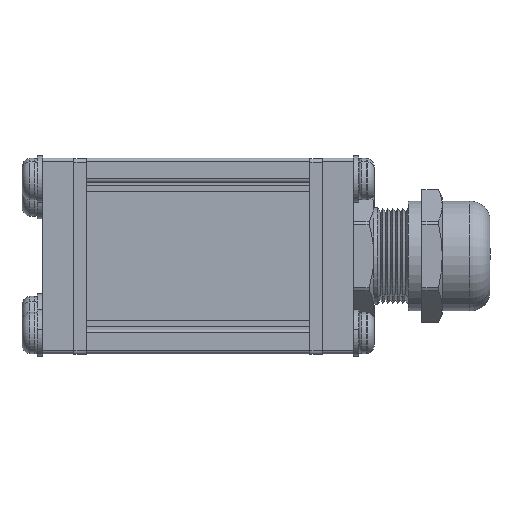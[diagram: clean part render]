
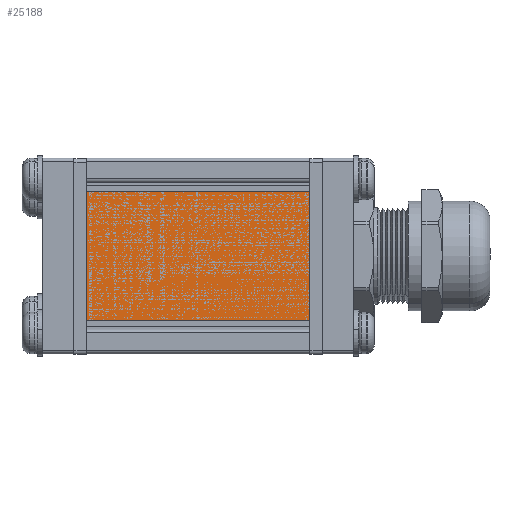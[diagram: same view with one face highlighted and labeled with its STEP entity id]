
A CAD part, top view. The second image highlights one B-rep face of the part: STEP entity #25188.
In plain terms, the highlighted planar face has unit normal (0, 0, 1).
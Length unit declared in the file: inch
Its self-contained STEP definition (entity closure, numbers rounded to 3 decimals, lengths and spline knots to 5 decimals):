
#174 = LINE ( 'NONE', #12764, #17970 ) ;
#1510 = LINE ( 'NONE', #14006, #5534 ) ;
#2366 = CARTESIAN_POINT ( 'NONE',  ( 11.28863, 4.07603, 0.10803 ) ) ;
#2862 = CARTESIAN_POINT ( 'NONE',  ( 10.38863, 4.07603, 0.10803 ) ) ;
#3268 = ORIENTED_EDGE ( 'NONE', *, *, #11172, .T. ) ;
#4085 = DIRECTION ( 'NONE',  ( 0., -1., 0. ) ) ;
#4591 = DIRECTION ( 'NONE',  ( 0., -1., 0. ) ) ;
#5231 = LINE ( 'NONE', #12629, #22483 ) ;
#5534 = VECTOR ( 'NONE', #4591, 39.37008 ) ;
#6085 = VERTEX_POINT ( 'NONE', #2862 ) ;
#6176 = DIRECTION ( 'NONE',  ( 0., 0., 1. ) ) ;
#6469 = EDGE_CURVE ( 'NONE', #9886, #6085, #5231, .T. ) ;
#7344 = EDGE_CURVE ( 'NONE', #9886, #21358, #174, .T. ) ;
#7937 = PLANE ( 'NONE',  #11901 ) ;
#8972 = EDGE_CURVE ( 'NONE', #21358, #25409, #1510, .T. ) ;
#9886 = VERTEX_POINT ( 'NONE', #16737 ) ;
#11172 = EDGE_CURVE ( 'NONE', #6085, #25409, #24366, .T. ) ;
#11901 = AXIS2_PLACEMENT_3D ( 'NONE', #18172, #6176, #4085 ) ;
#12629 = CARTESIAN_POINT ( 'NONE',  ( 10.38863, 4.61162, 0.10803 ) ) ;
#12764 = CARTESIAN_POINT ( 'NONE',  ( 10.38863, 4.59603, 0.10803 ) ) ;
#12778 = DIRECTION ( 'NONE',  ( 1., 0., 0. ) ) ;
#13142 = DIRECTION ( 'NONE',  ( 0., -1., 0. ) ) ;
#13775 = VECTOR ( 'NONE', #12778, 39.37008 ) ;
#14006 = CARTESIAN_POINT ( 'NONE',  ( 11.28863, 4.61162, 0.10803 ) ) ;
#16737 = CARTESIAN_POINT ( 'NONE',  ( 10.38863, 4.59603, 0.10803 ) ) ;
#16776 = DIRECTION ( 'NONE',  ( 1., 0., 0. ) ) ;
#16948 = CARTESIAN_POINT ( 'NONE',  ( 10.38863, 4.07603, 0.10803 ) ) ;
#17715 = EDGE_LOOP ( 'NONE', ( #24855, #18825, #18698, #3268 ) ) ;
#17970 = VECTOR ( 'NONE', #16776, 39.37008 ) ;
#18172 = CARTESIAN_POINT ( 'NONE',  ( 9.8374, 4.61162, 0.10803 ) ) ;
#18698 = ORIENTED_EDGE ( 'NONE', *, *, #6469, .T. ) ;
#18825 = ORIENTED_EDGE ( 'NONE', *, *, #7344, .F. ) ;
#21358 = VERTEX_POINT ( 'NONE', #23068 ) ;
#21775 = FACE_OUTER_BOUND ( 'NONE', #17715, .T. ) ;
#22483 = VECTOR ( 'NONE', #13142, 39.37008 ) ;
#23068 = CARTESIAN_POINT ( 'NONE',  ( 11.28863, 4.59603, 0.10803 ) ) ;
#24366 = LINE ( 'NONE', #16948, #13775 ) ;
#24855 = ORIENTED_EDGE ( 'NONE', *, *, #8972, .F. ) ;
#25188 = ADVANCED_FACE ( 'NONE', ( #21775 ), #7937, .T. ) ;
#25409 = VERTEX_POINT ( 'NONE', #2366 ) ;
